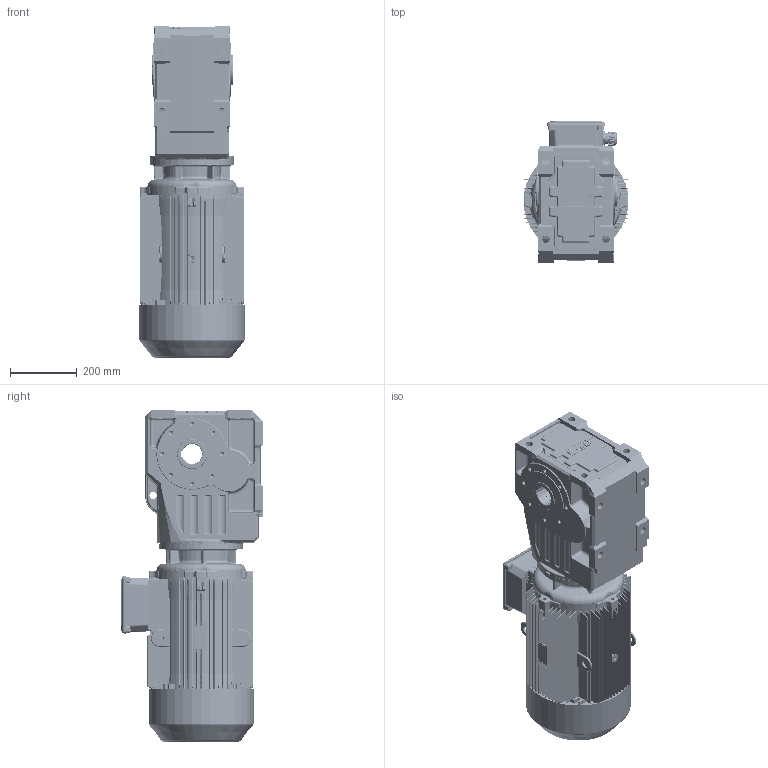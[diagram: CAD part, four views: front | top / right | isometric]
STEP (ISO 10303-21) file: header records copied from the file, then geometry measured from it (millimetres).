
FILE_DESCRIPTION (( 'STEP AP203' ), '1' );
FILE_NAME ('IRKM 93-160 L.step', '2026-01-27T05:20:09', ( '' ), ( '' ), 'SwSTEP 2.0', 'SolidWorks 2024', '' );
FILE_SCHEMA (( 'CONFIG_CONTROL_DESIGN' ));
Products named in the file (5): IRK 93-_IRK 93; MBK 160 IE3 GMK İR83, İRK93, YP93, V81, İRC83, İRSD83; 15kW_160_L_B9 - Standart; IRKM 93-160 L; Şase_Ø250
Assembly tree (4 placements, depth 2):
  IRKM 93-160 L
    Şase_Ø250
    IRK 93-_IRK 93
    MBK 160 IE3 GMK İR83, İRK93, YP93, V81, İRC83, İRSD83
    15kW_160_L_B9 - Standart
Bounding box: 315 x 424.42 x 996 mm (x, y, z)
Volume: 64777235.8 mm3; surface area: 2826023.7 mm2
Topology: 4 solids, 10 shells, 10048 faces, 27427 edges, 17481 vertices
Faces by surface type: plane 5202, bspline 2090, cylinder 1744, cone 462, torus 334, sphere 216
Entity records: 414939 total; most frequent: CARTESIAN_POINT 181186, ORIENTED_EDGE 54306, DIRECTION 39828, EDGE_CURVE 27153, VERTEX_POINT 17399, VECTOR 16584, LINE 16584, AXIS2_PLACEMENT_3D 11622
